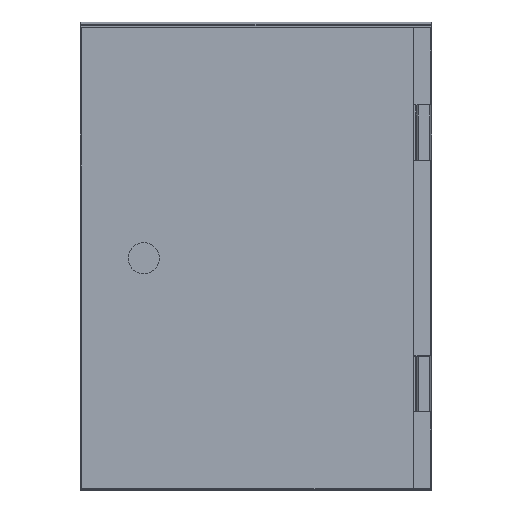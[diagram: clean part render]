
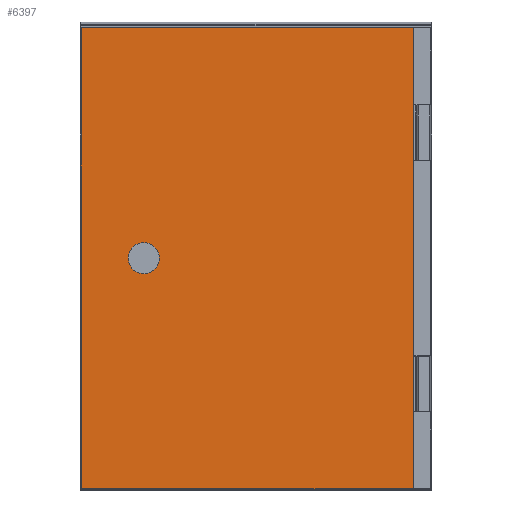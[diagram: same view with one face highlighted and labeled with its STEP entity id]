
A CAD part, top view. The second image highlights one B-rep face of the part: STEP entity #6397.
In plain terms, the highlighted planar face has unit normal (0, 0, 1).
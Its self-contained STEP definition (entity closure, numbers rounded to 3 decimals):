
#549=LINE('',#9845,#1309);
#551=LINE('',#9850,#1311);
#572=LINE('',#9891,#1332);
#573=LINE('',#9892,#1333);
#1309=VECTOR('',#7941,1000.);
#1311=VECTOR('',#7945,1000.);
#1332=VECTOR('',#7986,1000.);
#1333=VECTOR('',#7987,1000.);
#2535=ORIENTED_EDGE('',*,*,#3885,.T.);
#2536=ORIENTED_EDGE('',*,*,#3906,.F.);
#2537=ORIENTED_EDGE('',*,*,#3883,.T.);
#2538=ORIENTED_EDGE('',*,*,#3907,.T.);
#3883=EDGE_CURVE('',#4647,#4650,#549,.T.);
#3885=EDGE_CURVE('',#4653,#4651,#551,.T.);
#3906=EDGE_CURVE('',#4647,#4651,#572,.T.);
#3907=EDGE_CURVE('',#4650,#4653,#573,.T.);
#4647=VERTEX_POINT('',#9838);
#4650=VERTEX_POINT('',#9844);
#4651=VERTEX_POINT('',#9848);
#4653=VERTEX_POINT('',#9851);
#5252=EDGE_LOOP('',(#2535,#2536,#2537,#2538));
#5692=FACE_BOUND('',#5252,.T.);
#6084=PLANE('',#6855);
#6397=ADVANCED_FACE('',(#5692),#6084,.T.);
#6855=AXIS2_PLACEMENT_3D('',#9890,#7984,#7985);
#7941=DIRECTION('',(-1.,0.,0.));
#7945=DIRECTION('',(1.,0.,0.));
#7984=DIRECTION('',(0.,0.,1.));
#7985=DIRECTION('',(1.,0.,0.));
#7986=DIRECTION('',(0.,-1.,0.));
#7987=DIRECTION('',(0.,-1.,0.));
#9838=CARTESIAN_POINT('',(141.,413.2,30.));
#9844=CARTESIAN_POINT('',(-156.6,413.2,30.));
#9845=CARTESIAN_POINT('',(156.6,413.2,30.));
#9848=CARTESIAN_POINT('',(141.,0.,30.));
#9850=CARTESIAN_POINT('',(-156.6,0.,30.));
#9851=CARTESIAN_POINT('',(-156.6,0.,30.));
#9890=CARTESIAN_POINT('',(0.,0.,30.));
#9891=CARTESIAN_POINT('',(141.,413.2,30.));
#9892=CARTESIAN_POINT('',(-156.6,413.2,30.));
